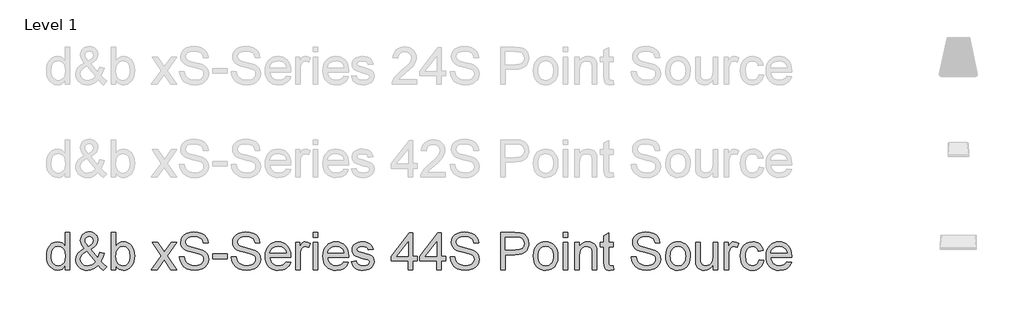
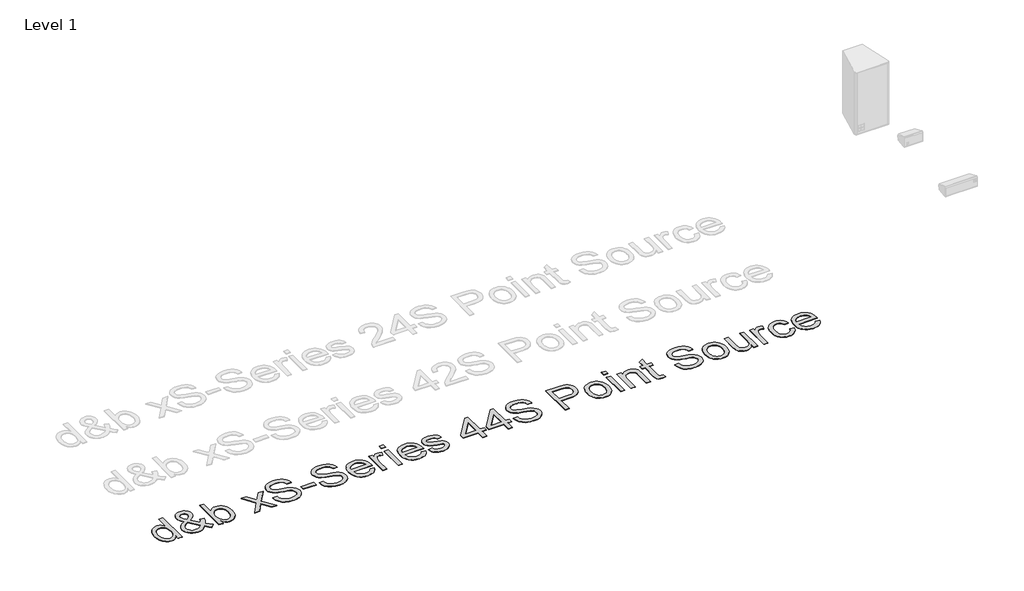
# One storey, part 43 of 55: 1 proxy.
"""IFC4 building model written with IfcOpenShell, lengths in millimetres."""

from ifc_helpers import new_model, si_unit, origin, origin_with_axes, place, context, project, spatial, polyline, outline, extrude, element, save

model = new_model("IFC4")

# Units and contexts
model_context = context("Model", 3, world=origin())
ifc_project = project(units=[si_unit("LENGTHUNIT", "METRE", prefix="MILLI")], contexts=[model_context])

# Site, building, storey
site = spatial("IfcSite", under=ifc_project)
building = spatial("IfcBuilding", under=site)
storey = spatial("IfcBuildingStorey", under=building, Name="Level 1", Elevation=0.0)

# Proxy
placement = place(None, origin())
element("IfcBuildingElementProxy", 1, Name="400mm Arial", ObjectType="400mm Arial", at=placement, inside=storey, context=model_context, shape_type="SweptSolid", body=[
    extrude(outline(polyline([(-20879.8211974, 9351.3054836), (-20879.8211974, 9398.6886846), (-20894.8491769, 9375.2116819), (-20913.0532043, 9358.4423943), (-20934.4332796, 9348.3808217), (-20958.9894028, 9345.0269642), (-20991.4611202, 9349.8830065), (-21021.1859854, 9364.4511335), (-21046.3491139, 9387.7135384), (-21065.1356211, 9418.6524142), (-21076.8342686, 9456.0169621), (-21080.7338177, 9498.5563835), (-21077.1408369, 9540.5685074), (-21066.3618944, 9578.5094038), (-21048.4092531, 9610.2208318), (-21023.2951755, 9633.5445503), (-20992.9203855, 9647.8919481), (-20959.1856065, 9652.674414), (-20934.6110892, 9649.2531115), (-20912.8815261, 9638.9892038), (-20894.4629008, 9623.2561171), (-20879.8211974, 9603.4272776), (-20879.8211974, 9753.1307242), (-20829.5930424, 9753.1307242), (-20829.5930424, 9351.3054836), (-20879.8211974, 9351.3054836)]), holes=[polyline([(-21030.5056627, 9498.7525872), (-21029.089317, 9474.3957335), (-21024.8402799, 9453.3191608), (-21017.7585515, 9435.5228693), (-21007.8441318, 9421.0068589), (-20983.1469871, 9401.6930542), (-20969.2717046, 9396.864603), (-20954.3786151, 9395.2551193), (-20939.415015, 9396.7910266), (-20925.6225058, 9401.3987486), (-20901.5507606, 9419.8296365), (-20892.0440767, 9433.7386416), (-20885.2535882, 9450.8911397), (-20879.8211974, 9494.9266145), (-20885.3516901, 9543.0701049), (-20892.2648059, 9561.6052261), (-20901.9431681, 9576.4492646), (-20913.6448812, 9587.8229496), (-20926.6280499, 9595.9470104), (-20940.8926743, 9600.8214468), (-20956.4387543, 9602.4462589), (-20971.6261493, 9600.8858262), (-20985.5014319, 9596.2045278), (-20998.064602, 9588.4023638), (-21009.3156597, 9577.4793342), (-21018.586286, 9563.1963157), (-21025.2081619, 9545.3141851), (-21030.5056627, 9498.7525872)])]), origin_with_axes(), (0.0, 0.0, 1.0), 5.0),
    extrude(outline(polyline([(-20523.809528, 9400.9450275), (-20549.3405384, 9376.4808748), (-20577.0788409, 9359.00648), (-20607.0734862, 9348.5218431), (-20639.3735254, 9345.0269642), (-20668.6814577, 9347.6144009), (-20694.8010793, 9355.376711), (-20717.7323904, 9368.3138945), (-20737.4753908, 9386.4259514), (-20750.308341, 9403.7961129), (-20759.4747341, 9422.1595558), (-20764.9745699, 9441.5162802), (-20766.8078485, 9461.8662859), (-20760.9094739, 9497.0603301), (-20743.2143499, 9528.6736562), (-20713.796053, 9556.6817387), (-20672.7281596, 9581.0600523), (-20694.6416638, 9609.4114914), (-20707.7995765, 9631.8768186), (-20714.3846642, 9651.0557332), (-20716.5796934, 9669.5479349), (-20714.8506481, 9687.1020374), (-20709.6635119, 9703.4666548), (-20701.018285, 9718.6417871), (-20688.9149674, 9732.6274343), (-20674.1935562, 9744.3444759), (-20657.6940487, 9752.7137912), (-20639.4164449, 9757.7353805), (-20619.3607448, 9759.4092436), (-20600.212487, 9757.8089569), (-20582.8913764, 9753.0080968), (-20567.397413, 9745.0066634), (-20553.7305969, 9733.8046567), (-20542.5715097, 9720.3585698), (-20534.6007332, 9705.6248959), (-20529.8182672, 9689.603635), (-20528.2241119, 9672.2947871), (-20532.9452642, 9644.31123), (-20547.108721, 9618.436863), (-20570.7144823, 9594.6716861), (-20603.7625482, 9573.0156993), (-20531.069066, 9482.4676776), (-20518.6837055, 9508.3420446), (-20509.3885538, 9538.0914353), (-20459.1603987, 9527.2021282), (-20474.6114425, 9480.6773185), (-20494.6732739, 9444.5022557), (-20466.1256311, 9411.1966724), (-20434.0463211, 9383.6790991), (-20471.7174374, 9345.0269642), (-20497.3465498, 9368.47331), (-20523.809528, 9400.9450275)]), holes=[polyline([(-20557.4584678, 9437.1446158), (-20647.1235727, 9549.0788442), (-20681.3733865, 9527.2266537), (-20702.305872, 9506.9931439), (-20713.0112381, 9487.6670765), (-20716.5796934, 9468.5372127), (-20711.6991256, 9444.8456122), (-20697.0574222, 9420.2710949), (-20686.2784798, 9409.3266056), (-20673.4639236, 9401.5091132), (-20658.6137537, 9396.8186177), (-20641.7279702, 9395.2551193), (-20619.0051256, 9398.1736498), (-20595.5710425, 9406.9292412), (-20574.1480476, 9420.3201459), (-20557.4584678, 9437.1446158)]), polyline([(-20629.1709314, 9604.7026019), (-20602.9041569, 9621.3676562), (-20587.8700461, 9635.8499441), (-20580.8067117, 9649.9398245), (-20578.452267, 9665.4276565), (-20581.5547385, 9682.9756277), (-20590.862153, 9696.9674062), (-20604.829406, 9706.1276679), (-20621.9113933, 9709.1810885), (-20639.3612626, 9706.1521934), (-20653.6473468, 9697.0655081), (-20663.1754905, 9683.6132898), (-20666.3515384, 9667.4877957), (-20662.0350563, 9649.0936959), (-20648.9875082, 9628.639457), (-20629.1709314, 9604.7026019)])]), origin_with_axes(), (0.0, 0.0, 1.0), 5.0),
    extrude(outline(polyline([(-20333.590011, 9351.3054836), (-20383.8181661, 9351.3054836), (-20383.8181661, 9753.1307242), (-20333.590011, 9753.1307242), (-20333.590011, 9604.1139907), (-20317.0721094, 9625.3591759), (-20298.4204923, 9640.5343082), (-20277.6351595, 9649.6393876), (-20254.7161112, 9652.674414), (-20228.8417442, 9649.9398245), (-20204.3898543, 9641.736056), (-20182.758393, 9628.5781433), (-20165.3453119, 9610.9811212), (-20151.6968898, 9589.116668), (-20141.3594058, 9563.1564619), (-20134.8478945, 9534.1796234), (-20132.6773907, 9503.265273), (-20134.9245365, 9467.5929822), (-20141.6659741, 9436.2126481), (-20152.9017034, 9409.1242705), (-20168.6317244, 9386.3278495), (-20187.5132678, 9368.2587122), (-20208.2035643, 9355.3521855), (-20230.702614, 9347.6082695), (-20255.0104168, 9345.0269642), (-20278.6836232, 9348.3562962), (-20299.671291, 9358.3442924), (-20317.9734203, 9374.9909527), (-20333.590011, 9398.2962771), (-20333.590011, 9351.3054836)]), holes=[polyline([(-20333.590011, 9500.9108283), (-20330.1564457, 9459.0213318), (-20319.8557498, 9430.6698927), (-20307.6849872, 9415.1759293), (-20293.5399244, 9404.1088126), (-20277.4205617, 9397.4685426), (-20259.3268989, 9395.2551193), (-20244.3050508, 9396.8860628), (-20230.3377977, 9401.7788933), (-20217.4251396, 9409.9336109), (-20205.5670767, 9421.3502155), (-20195.6526569, 9435.9980502), (-20188.5709285, 9453.8464584), (-20184.3218914, 9474.8954399), (-20182.9055458, 9499.1449947), (-20188.3379366, 9545.1057186), (-20195.1284251, 9562.8989445), (-20204.6351089, 9577.2340795), (-20216.0670419, 9588.264408), (-20228.6332778, 9596.1432141), (-20242.3338164, 9600.8704977), (-20257.1686579, 9602.4462589), (-20272.190506, 9600.8153154), (-20286.1577591, 9595.9224849), (-20299.0704171, 9587.7677673), (-20310.9284801, 9576.3511628), (-20320.8428999, 9561.8504808), (-20327.9246283, 9544.443531), (-20332.1736653, 9524.1303135), (-20333.590011, 9500.9108283)])]), origin_with_axes(), (0.0, 0.0, 1.0), 5.0),
    extrude(outline(polyline([(-19950.6003285, 9351.3054836), (-19843.2768878, 9499.7336059), (-19944.3218092, 9646.3958946), (-19884.0872638, 9646.3958946), (-19835.3306367, 9575.6644497), (-19812.4729021, 9542.4079173), (-19792.6563253, 9569.6802359), (-19737.1306695, 9646.3958946), (-19676.6999204, 9646.3958946), (-19782.8461387, 9499.635504), (-19680.623995, 9351.3054836), (-19740.9566422, 9351.3054836), (-19802.5646137, 9440.5781811), (-19813.7482263, 9456.9611926), (-19890.1695795, 9351.3054836), (-19950.6003285, 9351.3054836)])), origin_with_axes(), (0.0, 0.0, 1.0), 5.0),
    extrude(outline(polyline([(-19649.2313981, 9489.43291), (-19599.003243, 9489.43291), (-19593.2397584, 9461.5597175), (-19582.8164352, 9439.155704), (-19566.556051, 9421.3747409), (-19543.2813835, 9407.3706996), (-19514.8318425, 9398.2840144), (-19483.0468381, 9395.2551193), (-19455.063281, 9397.5482504), (-19430.5623402, 9404.4276437), (-19410.7089752, 9415.3169507), (-19396.6681457, 9429.6398231), (-19388.3172244, 9446.0841483), (-19385.533584, 9463.3378138), (-19387.6182486, 9480.150021), (-19393.8722425, 9494.6813598), (-19406.5764341, 9507.0789831), (-19428.0116917, 9517.4900435), (-19501.1466323, 9536.6689582), (-19549.1552327, 9549.360887), (-19579.8733793, 9561.4396792), (-19604.8770922, 9578.3377255), (-19622.5967416, 9598.8164899), (-19633.1549549, 9622.434514), (-19636.6743593, 9648.7503394), (-19632.3210891, 9678.1686363), (-19619.2612782, 9705.6003704), (-19597.8382834, 9728.8505125), (-19568.395461, 9745.7240333), (-19533.054264, 9755.987941), (-19493.9361452, 9759.4092436), (-19451.5561394, 9755.8285255), (-19414.4736342, 9745.0863712), (-19384.013005, 9727.40351), (-19361.4986269, 9703.000671), (-19347.249331, 9673.3984331), (-19341.5839483, 9640.1173753), (-19391.8121033, 9640.1173753), (-19401.0336787, 9670.0874951), (-19409.3968627, 9681.9455581), (-19420.2616443, 9691.7189564), (-19450.3053406, 9704.8155555), (-19491.9741079, 9709.1810885), (-19534.6238939, 9704.8646064), (-19550.9271976, 9699.4690038), (-19563.8827752, 9691.9151602), (-19580.805347, 9672.8588728), (-19586.4462043, 9650.2218674), (-19582.4485532, 9630.9203254), (-19570.4556002, 9615.3957052), (-19542.1041611, 9601.5142912), (-19488.4424407, 9587.3385717), (-19433.0639377, 9573.8740907), (-19399.5621507, 9562.1263923), (-19370.9286687, 9543.9039708), (-19350.9526764, 9521.4141181), (-19339.2172408, 9494.902089), (-19335.3054289, 9464.6131381), (-19339.805852, 9433.6497368), (-19353.3071212, 9404.5257455), (-19375.2574136, 9379.4607189), (-19405.1049061, 9360.6742117), (-19440.9979261, 9348.9387761), (-19481.0848008, 9345.0269642), (-19530.2951491, 9349.2453444), (-19570.7989567, 9361.900485), (-19603.0622077, 9383.041437), (-19627.5508858, 9412.7172513), (-19643.2717098, 9448.8677887), (-19649.2313981, 9489.43291)])), origin_with_axes(), (0.0, 0.0, 1.0), 5.0),
    extrude(outline(polyline([(-19291.3557932, 9470.5973519), (-19291.3557932, 9520.825507), (-19134.3928086, 9520.825507), (-19134.3928086, 9470.5973519), (-19291.3557932, 9470.5973519)])), origin_with_axes(), (0.0, 0.0, 1.0), 5.0),
    extrude(outline(polyline([(-19090.4431729, 9489.43291), (-19040.2150178, 9489.43291), (-19034.4515332, 9461.5597175), (-19024.02821, 9439.155704), (-19007.7678258, 9421.3747409), (-18984.4931583, 9407.3706996), (-18956.0436173, 9398.2840144), (-18924.2586129, 9395.2551193), (-18896.2750558, 9397.5482504), (-18871.774115, 9404.4276437), (-18851.9207499, 9415.3169507), (-18837.8799205, 9429.6398231), (-18829.5289992, 9446.0841483), (-18826.7453587, 9463.3378138), (-18828.8300234, 9480.150021), (-18835.0840173, 9494.6813598), (-18847.7882089, 9507.0789831), (-18869.2234665, 9517.4900435), (-18942.3584071, 9536.6689582), (-18990.3670075, 9549.360887), (-19021.0851541, 9561.4396792), (-19046.088867, 9578.3377255), (-19063.8085164, 9598.8164899), (-19074.3667297, 9622.434514), (-19077.8861341, 9648.7503394), (-19073.5328638, 9678.1686363), (-19060.473053, 9705.6003704), (-19039.0500582, 9728.8505125), (-19009.6072358, 9745.7240333), (-18974.2660388, 9755.987941), (-18935.14792, 9759.4092436), (-18892.7679141, 9755.8285255), (-18855.685409, 9745.0863712), (-18825.2247798, 9727.40351), (-18802.7104017, 9703.000671), (-18788.4611058, 9673.3984331), (-18782.7957231, 9640.1173753), (-18833.0238781, 9640.1173753), (-18842.2454535, 9670.0874951), (-18850.6086375, 9681.9455581), (-18861.4734191, 9691.7189564), (-18891.5171154, 9704.8155555), (-18933.1858827, 9709.1810885), (-18975.8356687, 9704.8646064), (-18992.1389724, 9699.4690038), (-19005.09455, 9691.9151602), (-19022.0171218, 9672.8588728), (-19027.657979, 9650.2218674), (-19023.660328, 9630.9203254), (-19011.667375, 9615.3957052), (-18983.3159359, 9601.5142912), (-18929.6542155, 9587.3385717), (-18874.2757125, 9573.8740907), (-18840.7739255, 9562.1263923), (-18812.1404435, 9543.9039708), (-18792.1644512, 9521.4141181), (-18780.4290156, 9494.902089), (-18776.5172037, 9464.6131381), (-18781.0176267, 9433.6497368), (-18794.518896, 9404.5257455), (-18816.4691883, 9379.4607189), (-18846.3166809, 9360.6742117), (-18882.2097009, 9348.9387761), (-18922.2965756, 9345.0269642), (-18971.5069238, 9349.2453444), (-19012.0107315, 9361.900485), (-19044.2739825, 9383.041437), (-19068.7626606, 9412.7172513), (-19084.4834846, 9448.8677887), (-19090.4431729, 9489.43291)])), origin_with_axes(), (0.0, 0.0, 1.0), 5.0),
    extrude(outline(polyline([(-18500.850962, 9439.204755), (-18451.6038255, 9432.9262356), (-18459.1546035, 9413.2016293), (-18469.3480004, 9395.819205), (-18482.1840164, 9380.7789628), (-18497.6626513, 9368.0809026), (-18515.6244897, 9357.9948045), (-18535.9101161, 9350.7904488), (-18583.4527326, 9345.0269642), (-18614.618469, 9347.5132333), (-18642.3874282, 9354.9720408), (-18666.7596104, 9367.4033865), (-18687.7350155, 9384.8072706), (-18704.602405, 9406.699315), (-18716.6505403, 9432.5951418), (-18723.8794215, 9462.4947509), (-18726.2890486, 9496.3981425), (-18723.8548961, 9531.4511652), (-18716.5524385, 9562.3471215), (-18704.3816758, 9589.0860112), (-18687.342608, 9611.6678343), (-18666.4223852, 9629.6082129), (-18642.6081574, 9642.4227691), (-18615.8999246, 9650.1115028), (-18586.2976867, 9652.674414), (-18557.6488763, 9650.1176342), (-18531.7407868, 9642.4472946), (-18508.5734182, 9629.6633952), (-18488.1467704, 9611.7659362), (-18471.472519, 9589.233164), (-18459.5623394, 9562.5433252), (-18452.4162316, 9531.6964199), (-18450.0341957, 9496.6924481), (-18450.3285013, 9483.1543906), (-18676.0608935, 9483.1543906), (-18673.1515601, 9463.1109533), (-18667.3666157, 9445.5568507), (-18658.7060604, 9430.492083), (-18647.1698942, 9417.9166502), (-18633.3957791, 9408.0022304), (-18618.0213774, 9400.920502), (-18582.4717139, 9395.2551193), (-18555.7389556, 9397.8793442), (-18533.2245775, 9405.7520189), (-18514.9285796, 9419.3636527), (-18500.850962, 9439.204755)]), holes=[polyline([(-18676.0608935, 9533.3825457), (-18500.2623508, 9533.3825457), (-18507.0559049, 9559.9191003), (-18520.3732332, 9578.9018113), (-18534.0707061, 9589.2025071), (-18549.65664, 9596.560147), (-18567.1310348, 9600.974731), (-18586.4938904, 9602.4462589), (-18620.3512967, 9597.7496321), (-18648.3471166, 9583.6597517), (-18667.8080741, 9561.6971966), (-18676.0608935, 9533.3825457)])]), origin_with_axes(), (0.0, 0.0, 1.0), 5.0),
    extrude(outline(polyline([(-18399.8060406, 9351.3054836), (-18399.8060406, 9646.3958946), (-18355.8564049, 9646.3958946), (-18355.8564049, 9602.7405645), (-18339.6205462, 9628.0508458), (-18324.6600117, 9642.9623293), (-18309.6504263, 9650.2463929), (-18293.2674148, 9652.674414), (-18268.2514391, 9648.7993903), (-18242.843056, 9637.1743193), (-18259.618475, 9592.1455631), (-18277.2768108, 9599.871085), (-18294.9351465, 9602.4462589), (-18309.9324692, 9599.9691868), (-18323.3356365, 9592.5379705), (-18334.1636299, 9580.7166958), (-18341.4354307, 9565.0694482), (-18347.5422718, 9537.0123147), (-18349.5778855, 9506.4045327), (-18349.5778855, 9351.3054836), (-18399.8060406, 9351.3054836)])), origin_with_axes(), (0.0, 0.0, 1.0), 5.0),
    extrude(outline(polyline([(-18211.4504591, 9702.9025691), (-18211.4504591, 9753.1307242), (-18161.222304, 9753.1307242), (-18161.222304, 9702.9025691), (-18211.4504591, 9702.9025691)])), origin_with_axes(), (0.0, 0.0, 1.0), 5.0),
    extrude(outline(polyline([(-18211.4504591, 9351.3054836), (-18211.4504591, 9646.3958946), (-18161.222304, 9646.3958946), (-18161.222304, 9351.3054836), (-18211.4504591, 9351.3054836)])), origin_with_axes(), (0.0, 0.0, 1.0), 5.0),
    extrude(outline(polyline([(-17879.2775429, 9439.204755), (-17830.0304065, 9432.9262356), (-17837.5811844, 9413.2016293), (-17847.7745814, 9395.819205), (-17860.6105973, 9380.7789628), (-17876.0892323, 9368.0809026), (-17894.0510707, 9357.9948045), (-17914.336697, 9350.7904488), (-17961.8793136, 9345.0269642), (-17993.0450499, 9347.5132333), (-18020.8140092, 9354.9720408), (-18045.1861914, 9367.4033865), (-18066.1615965, 9384.8072706), (-18083.0289859, 9406.699315), (-18095.0771213, 9432.5951418), (-18102.3060025, 9462.4947509), (-18104.7156295, 9496.3981425), (-18102.281477, 9531.4511652), (-18094.9790194, 9562.3471215), (-18082.8082567, 9589.0860112), (-18065.769189, 9611.6678343), (-18044.8489662, 9629.6082129), (-18021.0347384, 9642.4227691), (-17994.3265055, 9650.1115028), (-17964.7242676, 9652.674414), (-17936.0754573, 9650.1176342), (-17910.1673678, 9642.4472946), (-17886.9999991, 9629.6633952), (-17866.5733513, 9611.7659362), (-17849.8990999, 9589.233164), (-17837.9889203, 9562.5433252), (-17830.8428126, 9531.6964199), (-17828.4607766, 9496.6924481), (-17828.7550822, 9483.1543906), (-18054.4874745, 9483.1543906), (-18051.578141, 9463.1109533), (-18045.7931967, 9445.5568507), (-18037.1326413, 9430.492083), (-18025.5964751, 9417.9166502), (-18011.8223601, 9408.0022304), (-17996.4479584, 9400.920502), (-17960.8982949, 9395.2551193), (-17934.1655366, 9397.8793442), (-17911.6511585, 9405.7520189), (-17893.3551606, 9419.3636527), (-17879.2775429, 9439.204755)]), holes=[polyline([(-18054.4874745, 9533.3825457), (-17878.6889317, 9533.3825457), (-17885.4824859, 9559.9191003), (-17898.7998141, 9578.9018113), (-17912.4972871, 9589.2025071), (-17928.0832209, 9596.560147), (-17945.5576157, 9600.974731), (-17964.9204714, 9602.4462589), (-17998.7778777, 9597.7496321), (-18026.7736975, 9583.6597517), (-18046.234655, 9561.6971966), (-18054.4874745, 9533.3825457)])]), origin_with_axes(), (0.0, 0.0, 1.0), 5.0),
    extrude(outline(polyline([(-17797.0681797, 9439.204755), (-17746.8400246, 9445.4832743), (-17738.918299, 9423.9989658), (-17723.5898825, 9408.2045655), (-17700.7566734, 9398.4924808), (-17670.3205696, 9395.2551193), (-17640.2523479, 9398.2227007), (-17619.1113959, 9407.125445), (-17606.6034081, 9420.0258403), (-17602.4340788, 9434.9863747), (-17606.6279335, 9447.7886682), (-17619.2094978, 9457.5498038), (-17670.9091808, 9471.8726761), (-17746.545719, 9496.4471934), (-17765.6878455, 9508.7957657), (-17779.5569967, 9525.141989), (-17787.9814944, 9544.443531), (-17790.7896603, 9565.6580594), (-17788.5333174, 9585.119017), (-17781.7642887, 9603.0839211), (-17771.0957109, 9618.8415332), (-17757.1407205, 9631.6806148), (-17725.2085633, 9646.5430474), (-17704.3251287, 9651.1415724), (-17681.9946916, 9652.674414), (-17649.302245, 9650.2096047), (-17620.8772295, 9642.8151766), (-17598.0194949, 9631.214631), (-17582.0288908, 9616.1314692), (-17571.4338893, 9596.4497824), (-17564.7629625, 9571.053662), (-17614.9911176, 9564.7751426), (-17621.3309506, 9580.5818057), (-17633.8757267, 9592.4889196), (-17652.748073, 9599.9569241), (-17678.070617, 9602.4462589), (-17706.9125654, 9600.0672887), (-17726.140531, 9592.930378), (-17736.9562617, 9582.6296821), (-17740.5615053, 9570.7593564), (-17734.5772915, 9556.1421785), (-17715.8398352, 9545.0566677), (-17672.5769125, 9534.3635644), (-17598.8533607, 9510.7210148), (-17579.3801404, 9499.4147748), (-17564.6158097, 9483.9392056), (-17555.3083952, 9464.2452561), (-17552.2059237, 9440.2838755), (-17555.8479555, 9415.5131545), (-17566.7740507, 9392.2139614), (-17584.5672766, 9372.2134436), (-17608.8107, 9357.3387483), (-17638.0941069, 9348.1049102), (-17671.0072827, 9345.0269642), (-17698.040478, 9346.5107549), (-17721.6523707, 9350.962127), (-17741.8429609, 9358.3810806), (-17758.6122485, 9368.7676156), (-17772.3097214, 9382.0726811), (-17783.2848676, 9398.2472262), (-17791.5376871, 9417.2912508), (-17797.0681797, 9439.204755)])), origin_with_axes(), (0.0, 0.0, 1.0), 5.0),
    extrude(outline(polyline([(-17188.0517994, 9351.3054836), (-17188.0517994, 9445.4832743), (-17370.1288616, 9445.4832743), (-17370.1288616, 9495.7114294), (-17175.4947607, 9746.8522048), (-17137.8236444, 9746.8522048), (-17137.8236444, 9495.7114294), (-17087.5954893, 9495.7114294), (-17087.5954893, 9445.4832743), (-17137.8236444, 9445.4832743), (-17137.8236444, 9351.3054836), (-17188.0517994, 9351.3054836)]), holes=[polyline([(-17188.0517994, 9495.7114294), (-17188.0517994, 9650.9085804), (-17308.3246864, 9495.7114294), (-17188.0517994, 9495.7114294)])]), origin_with_axes(), (0.0, 0.0, 1.0), 5.0),
    extrude(outline(polyline([(-16880.4043496, 9351.3054836), (-16880.4043496, 9445.4832743), (-17062.4814117, 9445.4832743), (-17062.4814117, 9495.7114294), (-16867.8473108, 9746.8522048), (-16830.1761945, 9746.8522048), (-16830.1761945, 9495.7114294), (-16779.9480394, 9495.7114294), (-16779.9480394, 9445.4832743), (-16830.1761945, 9445.4832743), (-16830.1761945, 9351.3054836), (-16880.4043496, 9351.3054836)]), holes=[polyline([(-16880.4043496, 9495.7114294), (-16880.4043496, 9650.9085804), (-17000.6772366, 9495.7114294), (-16880.4043496, 9495.7114294)])]), origin_with_axes(), (0.0, 0.0, 1.0), 5.0),
    extrude(outline(polyline([(-16735.9984038, 9489.43291), (-16685.7702487, 9489.43291), (-16680.0067641, 9461.5597175), (-16669.5834409, 9439.155704), (-16653.3230567, 9421.3747409), (-16630.0483891, 9407.3706996), (-16601.5988482, 9398.2840144), (-16569.8138438, 9395.2551193), (-16541.8302867, 9397.5482504), (-16517.3293458, 9404.4276437), (-16497.4759808, 9415.3169507), (-16483.4351513, 9429.6398231), (-16475.08423, 9446.0841483), (-16472.3005896, 9463.3378138), (-16474.3852543, 9480.150021), (-16480.6392482, 9494.6813598), (-16493.3434397, 9507.0789831), (-16514.7786973, 9517.4900435), (-16587.913638, 9536.6689582), (-16635.9222383, 9549.360887), (-16666.6403849, 9561.4396792), (-16691.6440979, 9578.3377255), (-16709.3637473, 9598.8164899), (-16719.9219606, 9622.434514), (-16723.441365, 9648.7503394), (-16719.0880947, 9678.1686363), (-16706.0282839, 9705.6003704), (-16684.605289, 9728.8505125), (-16655.1624667, 9745.7240333), (-16619.8212697, 9755.987941), (-16580.7031509, 9759.4092436), (-16538.323145, 9755.8285255), (-16501.2406399, 9745.0863712), (-16470.7800107, 9727.40351), (-16448.2656326, 9703.000671), (-16434.0163367, 9673.3984331), (-16428.3509539, 9640.1173753), (-16478.579109, 9640.1173753), (-16487.8006843, 9670.0874951), (-16496.1638684, 9681.9455581), (-16507.02865, 9691.7189564), (-16537.0723462, 9704.8155555), (-16578.7411136, 9709.1810885), (-16621.3908995, 9704.8646064), (-16637.6942033, 9699.4690038), (-16650.6497809, 9691.9151602), (-16667.5723527, 9672.8588728), (-16673.2132099, 9650.2218674), (-16669.2155589, 9630.9203254), (-16657.2226059, 9615.3957052), (-16628.8711668, 9601.5142912), (-16575.2094464, 9587.3385717), (-16519.8309434, 9573.8740907), (-16486.3291564, 9562.1263923), (-16457.6956744, 9543.9039708), (-16437.7196821, 9521.4141181), (-16425.9842464, 9494.902089), (-16422.0724345, 9464.6131381), (-16426.5728576, 9433.6497368), (-16440.0741268, 9404.5257455), (-16462.0244192, 9379.4607189), (-16491.8719118, 9360.6742117), (-16527.7649318, 9348.9387761), (-16567.8518065, 9345.0269642), (-16617.0621547, 9349.2453444), (-16657.5659624, 9361.900485), (-16689.8292134, 9383.041437), (-16714.3178915, 9412.7172513), (-16730.0387154, 9448.8677887), (-16735.9984038, 9489.43291)])), origin_with_axes(), (0.0, 0.0, 1.0), 5.0),
    extrude(outline(polyline([(-16189.7672173, 9351.3054836), (-16189.7672173, 9753.1307242), (-16040.8485857, 9753.1307242), (-15980.8102441, 9749.3047514), (-15954.0406975, 9742.155578), (-15932.004566, 9730.5182442), (-15914.2603911, 9713.8654526), (-15900.3667144, 9691.6699055), (-15891.3903938, 9665.4889702), (-15888.3982869, 9636.8800137), (-15890.4185722, 9612.2135259), (-15896.479428, 9589.5213382), (-15906.5808545, 9568.8034505), (-15920.7228515, 9550.0598628), (-15940.1378238, 9534.5229799), (-15966.0581761, 9523.4252064), (-15998.4839082, 9516.7665423), (-16037.4150204, 9514.5469876), (-16139.5390622, 9514.5469876), (-16139.5390622, 9351.3054836), (-16189.7672173, 9351.3054836)]), holes=[polyline([(-16139.5390622, 9564.7751426), (-16034.4719644, 9564.7751426), (-15989.9337175, 9569.3859303), (-15973.3299768, 9575.1494149), (-15960.5031579, 9583.2182933), (-15950.9320947, 9593.3779678), (-15944.0956209, 9605.4138404), (-15938.6264419, 9635.1141801), (-15941.8515408, 9657.6776092), (-15951.5268372, 9676.709371), (-15966.4505835, 9691.0322434), (-15985.4210317, 9699.4690038), (-16035.6491868, 9702.9025691), (-16139.5390622, 9702.9025691), (-16139.5390622, 9564.7751426)])]), origin_with_axes(), (0.0, 0.0, 1.0), 5.0),
    extrude(outline(polyline([(-15838.1701318, 9498.8506891), (-15835.4539364, 9537.067497), (-15827.3053502, 9569.999067), (-15813.7243732, 9597.6453989), (-15794.7110054, 9620.0064928), (-15775.5688789, 9634.2987084), (-15754.4401897, 9644.5074337), (-15731.3249377, 9650.6326689), (-15706.2231229, 9652.674414), (-15678.5124116, 9650.1881449), (-15653.456582, 9642.7293374), (-15631.0556342, 9630.2979917), (-15611.3095681, 9612.8941076), (-15595.193271, 9591.1062964), (-15583.6816303, 9565.5231694), (-15576.7746458, 9536.1447264), (-15574.4723177, 9502.9709675), (-15578.5435451, 9452.2277776), (-15590.7572273, 9413.6001681), (-15610.7577451, 9384.6723805), (-15638.1894792, 9363.0286565), (-15670.7715613, 9349.5273873), (-15706.2231229, 9345.0269642), (-15734.3385043, 9347.5040363), (-15759.6273258, 9354.9352526), (-15782.0895873, 9367.3206131), (-15801.7252888, 9384.6601178), (-15817.6699076, 9406.6594611), (-15829.058921, 9433.0243374), (-15835.8923291, 9463.7547468), (-15838.1701318, 9498.8506891)]), holes=[polyline([(-15787.9419767, 9498.948791), (-15786.4888428, 9474.5858058), (-15782.1294412, 9453.4908391), (-15774.8637718, 9435.6638907), (-15764.6918346, 9421.1049608), (-15752.3187369, 9409.7956551), (-15738.4495856, 9401.7175796), (-15723.084381, 9396.8707344), (-15706.2231229, 9395.2551193), (-15689.4477039, 9396.8799314), (-15674.1438129, 9401.7543678), (-15660.3114499, 9409.8784286), (-15647.9506148, 9421.2521136), (-15637.7786777, 9435.9551307), (-15630.5130083, 9454.0671876), (-15626.1536066, 9475.5882843), (-15624.7004727, 9500.5184208), (-15626.1628037, 9524.1088538), (-15630.5497965, 9544.6519975), (-15637.8614511, 9562.1478521), (-15648.0977676, 9576.5964174), (-15660.5045879, 9587.9057231), (-15674.3277539, 9595.9837986), (-15689.5672655, 9600.8306439), (-15706.2231229, 9602.4462589), (-15723.084381, 9600.8367752), (-15738.4495856, 9596.008324), (-15752.3187369, 9587.9609054), (-15764.6918346, 9576.6945193), (-15774.8637718, 9562.1785089), (-15782.1294412, 9544.3822174), (-15786.4888428, 9523.3056447), (-15787.9419767, 9498.948791)])]), origin_with_axes(), (0.0, 0.0, 1.0), 5.0),
    extrude(outline(polyline([(-15517.9656432, 9351.3054836), (-15517.9656432, 9646.3958946), (-15467.7374881, 9646.3958946), (-15467.7374881, 9351.3054836), (-15517.9656432, 9351.3054836)])), origin_with_axes(), (0.0, 0.0, 1.0), 5.0),
    extrude(outline(polyline([(-15517.9656432, 9702.9025691), (-15517.9656432, 9753.1307242), (-15467.7374881, 9753.1307242), (-15467.7374881, 9702.9025691), (-15517.9656432, 9702.9025691)])), origin_with_axes(), (0.0, 0.0, 1.0), 5.0),
    extrude(outline(polyline([(-15392.3952555, 9351.3054836), (-15392.3952555, 9646.3958946), (-15342.1671004, 9646.3958946), (-15342.1671004, 9605.1931112), (-15324.7172311, 9625.9661812), (-15303.7602201, 9640.8040883), (-15279.2960675, 9649.7068326), (-15251.3247731, 9652.674414), (-15226.5663148, 9650.2831811), (-15203.8925212, 9643.1094821), (-15184.9833866, 9632.0484968), (-15171.5189056, 9617.9954046), (-15162.3831694, 9600.9869937), (-15156.4602693, 9581.0600523), (-15153.8115189, 9532.4996289), (-15153.8115189, 9351.3054836), (-15204.039674, 9351.3054836), (-15204.039674, 9525.7306002), (-15205.4866765, 9551.7030691), (-15209.827684, 9570.1707452), (-15217.8352488, 9583.4022343), (-15230.281923, 9593.666142), (-15246.2357388, 9600.2512297), (-15264.7647286, 9602.4462589), (-15294.1830255, 9597.5166402), (-15319.2603149, 9582.727784), (-15329.2820336, 9570.6551232), (-15336.440404, 9554.1556157), (-15340.7354263, 9533.2292616), (-15342.1671004, 9507.8760607), (-15342.1671004, 9351.3054836), (-15392.3952555, 9351.3054836)])), origin_with_axes(), (0.0, 0.0, 1.0), 5.0),
    extrude(outline(polyline([(-14978.0129761, 9393.1949801), (-14971.7344568, 9349.8339556), (-15009.3074712, 9345.0269642), (-15033.4160046, 9347.1116288), (-15051.3931714, 9353.3656227), (-15064.097363, 9363.004131), (-15072.3869706, 9375.2423387), (-15076.9487074, 9396.2606634), (-15078.4692863, 9432.2395225), (-15078.4692863, 9596.1677396), (-15116.1404026, 9596.1677396), (-15116.1404026, 9646.3958946), (-15078.4692863, 9646.3958946), (-15078.4692863, 9718.1083582), (-15028.2411312, 9747.6370197), (-15028.2411312, 9646.3958946), (-14978.0129761, 9646.3958946), (-14978.0129761, 9596.1677396), (-15028.2411312, 9596.1677396), (-15028.2411312, 9433.7110505), (-15025.5923808, 9407.812158), (-15017.0084676, 9398.6396336), (-14999.8896921, 9395.2551193), (-14978.0129761, 9393.1949801)])), origin_with_axes(), (0.0, 0.0, 1.0), 5.0),
    extrude(outline(polyline([(-14783.3788752, 9489.43291), (-14733.1507201, 9489.43291), (-14727.3872356, 9461.5597175), (-14716.9639124, 9439.155704), (-14700.7035282, 9421.3747409), (-14677.4288606, 9407.3706996), (-14648.9793197, 9398.2840144), (-14617.1943153, 9395.2551193), (-14589.2107582, 9397.5482504), (-14564.7098173, 9404.4276437), (-14544.8564523, 9415.3169507), (-14530.8156228, 9429.6398231), (-14522.4647015, 9446.0841483), (-14519.6810611, 9463.3378138), (-14521.7657257, 9480.150021), (-14528.0197196, 9494.6813598), (-14540.7239112, 9507.0789831), (-14562.1591688, 9517.4900435), (-14635.2941094, 9536.6689582), (-14683.3027098, 9549.360887), (-14714.0208564, 9561.4396792), (-14739.0245693, 9578.3377255), (-14756.7442188, 9598.8164899), (-14767.302432, 9622.434514), (-14770.8218365, 9648.7503394), (-14766.4685662, 9678.1686363), (-14753.4087554, 9705.6003704), (-14731.9857605, 9728.8505125), (-14702.5429382, 9745.7240333), (-14667.2017411, 9755.987941), (-14628.0836223, 9759.4092436), (-14585.7036165, 9755.8285255), (-14548.6211114, 9745.0863712), (-14518.1604822, 9727.40351), (-14495.6461041, 9703.000671), (-14481.3968081, 9673.3984331), (-14475.7314254, 9640.1173753), (-14525.9595805, 9640.1173753), (-14535.1811558, 9670.0874951), (-14543.5443398, 9681.9455581), (-14554.4091214, 9691.7189564), (-14584.4528177, 9704.8155555), (-14626.121585, 9709.1810885), (-14668.771371, 9704.8646064), (-14685.0746747, 9699.4690038), (-14698.0302523, 9691.9151602), (-14714.9528241, 9672.8588728), (-14720.5936814, 9650.2218674), (-14716.5960304, 9630.9203254), (-14704.6030773, 9615.3957052), (-14676.2516382, 9601.5142912), (-14622.5899179, 9587.3385717), (-14567.2114149, 9573.8740907), (-14533.7096278, 9562.1263923), (-14505.0761459, 9543.9039708), (-14485.1001535, 9521.4141181), (-14473.3647179, 9494.902089), (-14469.452906, 9464.6131381), (-14473.9533291, 9433.6497368), (-14487.4545983, 9404.5257455), (-14509.4048907, 9379.4607189), (-14539.2523832, 9360.6742117), (-14575.1454032, 9348.9387761), (-14615.232278, 9345.0269642), (-14664.4426262, 9349.2453444), (-14704.9464339, 9361.900485), (-14737.2096848, 9383.041437), (-14761.698363, 9412.7172513), (-14777.4191869, 9448.8677887), (-14783.3788752, 9489.43291)])), origin_with_axes(), (0.0, 0.0, 1.0), 5.0),
    extrude(outline(polyline([(-14412.9462315, 9498.8506891), (-14410.2300362, 9537.067497), (-14402.08145, 9569.999067), (-14388.500473, 9597.6453989), (-14369.4871052, 9620.0064928), (-14350.3449787, 9634.2987084), (-14329.2162894, 9644.5074337), (-14306.1010374, 9650.6326689), (-14280.9992226, 9652.674414), (-14253.2885113, 9650.1881449), (-14228.2326818, 9642.7293374), (-14205.8317339, 9630.2979917), (-14186.0856679, 9612.8941076), (-14169.9693708, 9591.1062964), (-14158.45773, 9565.5231694), (-14151.5507456, 9536.1447264), (-14149.2484174, 9502.9709675), (-14153.3196448, 9452.2277776), (-14165.5333271, 9413.6001681), (-14185.5338449, 9384.6723805), (-14212.965579, 9363.0286565), (-14245.547661, 9349.5273873), (-14280.9992226, 9345.0269642), (-14309.1146041, 9347.5040363), (-14334.4034256, 9354.9352526), (-14356.8656871, 9367.3206131), (-14376.5013886, 9384.6601178), (-14392.4460074, 9406.6594611), (-14403.8350208, 9433.0243374), (-14410.6684289, 9463.7547468), (-14412.9462315, 9498.8506891)]), holes=[polyline([(-14362.7180765, 9498.948791), (-14361.2649426, 9474.5858058), (-14356.9055409, 9453.4908391), (-14349.6398715, 9435.6638907), (-14339.4679344, 9421.1049608), (-14327.0948366, 9409.7956551), (-14313.2256854, 9401.7175796), (-14297.8604807, 9396.8707344), (-14280.9992226, 9395.2551193), (-14264.2238036, 9396.8799314), (-14248.9199126, 9401.7543678), (-14235.0875496, 9409.8784286), (-14222.7267146, 9421.2521136), (-14212.5547774, 9435.9551307), (-14205.289108, 9454.0671876), (-14200.9297064, 9475.5882843), (-14199.4765725, 9500.5184208), (-14200.9389034, 9524.1088538), (-14205.3258962, 9544.6519975), (-14212.6375509, 9562.1478521), (-14222.8738674, 9576.5964174), (-14235.2806877, 9587.9057231), (-14249.1038536, 9595.9837986), (-14264.3433653, 9600.8306439), (-14280.9992226, 9602.4462589), (-14297.8604807, 9600.8367752), (-14313.2256854, 9596.008324), (-14327.0948366, 9587.9609054), (-14339.4679344, 9576.6945193), (-14349.6398715, 9562.1785089), (-14356.9055409, 9544.3822174), (-14361.2649426, 9523.3056447), (-14362.7180765, 9498.948791)])]), origin_with_axes(), (0.0, 0.0, 1.0), 5.0),
    extrude(outline(polyline([(-13904.3861614, 9351.3054836), (-13904.3861614, 9402.024148), (-13922.559532, 9377.0878801), (-13943.7250094, 9359.2762601), (-13967.8825938, 9348.5892882), (-13995.032285, 9345.0269642), (-14019.4964377, 9347.5285618), (-14042.2683332, 9355.0333545), (-14061.3736715, 9366.315069), (-14074.8381525, 9380.147432), (-14083.9003123, 9396.9473764), (-14089.798687, 9417.1318352), (-14092.7417429, 9463.8283232), (-14092.7417429, 9646.3958946), (-14042.5135879, 9646.3958946), (-14042.5135879, 9487.4708727), (-14039.47243, 9436.261699), (-14032.1515783, 9419.1797117), (-14019.6068023, 9406.1934773), (-14002.6719678, 9397.9897088), (-13982.1809407, 9395.2551193), (-13960.5126911, 9398.0510224), (-13940.2423932, 9406.4387319), (-13923.5282879, 9419.6456955), (-13912.5286162, 9436.8993611), (-13906.4217751, 9460.5296479), (-13904.3861614, 9492.8664753), (-13904.3861614, 9646.3958946), (-13854.1580063, 9646.3958946), (-13854.1580063, 9351.3054836), (-13904.3861614, 9351.3054836)])), origin_with_axes(), (0.0, 0.0, 1.0), 5.0),
    extrude(outline(polyline([(-13785.0942931, 9351.3054836), (-13785.0942931, 9646.3958946), (-13741.1446574, 9646.3958946), (-13741.1446574, 9602.7405645), (-13724.9087987, 9628.0508458), (-13709.9482642, 9642.9623293), (-13694.9386788, 9650.2463929), (-13678.5556673, 9652.674414), (-13653.5396916, 9648.7993903), (-13628.1313085, 9637.1743193), (-13644.9067275, 9592.1455631), (-13662.5650633, 9599.871085), (-13680.223399, 9602.4462589), (-13695.2207217, 9599.9691868), (-13708.623889, 9592.5379705), (-13719.4518824, 9580.7166958), (-13726.7236832, 9565.0694482), (-13732.8305243, 9537.0123147), (-13734.866138, 9506.4045327), (-13734.866138, 9351.3054836), (-13785.0942931, 9351.3054836)])), origin_with_axes(), (0.0, 0.0, 1.0), 5.0),
    extrude(outline(polyline([(-13408.3831301, 9458.0403131), (-13358.154975, 9451.7617937), (-13363.6180226, 9428.0609962), (-13372.1590163, 9407.0886568), (-13383.7779559, 9388.8447755), (-13398.4748416, 9373.3293524), (-13415.6304054, 9360.9470575), (-13434.625379, 9352.1025612), (-13455.4597627, 9346.7958634), (-13478.1335563, 9345.0269642), (-13506.3041201, 9347.4948392), (-13531.5622848, 9354.8984644), (-13553.9080503, 9367.2378396), (-13573.3414167, 9384.512965), (-13589.0714377, 9406.398878), (-13600.3071669, 9432.5706163), (-13607.0486045, 9463.0281798), (-13609.2957504, 9497.7715686), (-13605.4575149, 9542.469231), (-13593.9428084, 9581.2072051), (-13574.56769, 9612.4894374), (-13547.1482186, 9634.8198745), (-13514.3454074, 9648.2107791), (-13478.8202694, 9652.674414), (-13456.5358175, 9651.1415724), (-13436.3789499, 9646.5430474), (-13418.3496664, 9638.8788392), (-13402.4479672, 9628.1489477), (-13388.9436323, 9614.5986275), (-13378.1064418, 9598.4731334), (-13369.9363959, 9579.7724653), (-13364.4334944, 9558.4966233), (-13414.6616494, 9552.2181039), (-13423.7728602, 9574.1316081), (-13437.9608425, 9589.8401692), (-13456.4407814, 9599.2947365), (-13478.4278619, 9602.4462589), (-13495.4945208, 9600.8950232), (-13510.8873166, 9596.241316), (-13524.6062494, 9588.4851372), (-13536.651319, 9577.626487), (-13546.4584399, 9563.4139793), (-13553.4635262, 9545.596228), (-13557.666578, 9524.1732331), (-13559.0675953, 9499.1449947), (-13553.5861535, 9452.0683621), (-13546.7343514, 9434.1310491), (-13537.1418284, 9419.9277384), (-13525.335882, 9409.1334675), (-13511.8438098, 9401.423274), (-13496.6656118, 9396.797158), (-13479.801288, 9395.2551193), (-13453.792031, 9399.1056175), (-13432.467138, 9410.6571121), (-13416.9547805, 9430.2039088), (-13408.3831301, 9458.0403131)])), origin_with_axes(), (0.0, 0.0, 1.0), 5.0),
    extrude(outline(polyline([(-13107.6028108, 9439.204755), (-13058.3556744, 9432.9262356), (-13065.9064523, 9413.2016293), (-13076.0998493, 9395.819205), (-13088.9358652, 9380.7789628), (-13104.4145002, 9368.0809026), (-13122.3763386, 9357.9948045), (-13142.6619649, 9350.7904488), (-13190.2045814, 9345.0269642), (-13221.3703178, 9347.5132333), (-13249.1392771, 9354.9720408), (-13273.5114593, 9367.4033865), (-13294.4868643, 9384.8072706), (-13311.3542538, 9406.699315), (-13323.4023892, 9432.5951418), (-13330.6312704, 9462.4947509), (-13333.0408974, 9496.3981425), (-13330.6067449, 9531.4511652), (-13323.3042873, 9562.3471215), (-13311.1335246, 9589.0860112), (-13294.0944569, 9611.6678343), (-13273.1742341, 9629.6082129), (-13249.3600063, 9642.4227691), (-13222.6517734, 9650.1115028), (-13193.0495355, 9652.674414), (-13164.4007252, 9650.1176342), (-13138.4926357, 9642.4472946), (-13115.325267, 9629.6633952), (-13094.8986192, 9611.7659362), (-13078.2243678, 9589.233164), (-13066.3141882, 9562.5433252), (-13059.1680804, 9531.6964199), (-13056.7860445, 9496.6924481), (-13057.0803501, 9483.1543906), (-13282.8127424, 9483.1543906), (-13279.9034089, 9463.1109533), (-13274.1184645, 9445.5568507), (-13265.4579092, 9430.492083), (-13253.921743, 9417.9166502), (-13240.147628, 9408.0022304), (-13224.7732263, 9400.920502), (-13189.2235628, 9395.2551193), (-13162.4908045, 9397.8793442), (-13139.9764264, 9405.7520189), (-13121.6804285, 9419.3636527), (-13107.6028108, 9439.204755)]), holes=[polyline([(-13282.8127424, 9533.3825457), (-13107.0141996, 9533.3825457), (-13113.8077538, 9559.9191003), (-13127.125082, 9578.9018113), (-13140.822555, 9589.2025071), (-13156.4084888, 9596.560147), (-13173.8828836, 9600.974731), (-13193.2457393, 9602.4462589), (-13227.1031456, 9597.7496321), (-13255.0989654, 9583.6597517), (-13274.5599229, 9561.6971966), (-13282.8127424, 9533.3825457)])]), origin_with_axes(), (0.0, 0.0, 1.0), 5.0),
])

save(model, "model.ifc")
